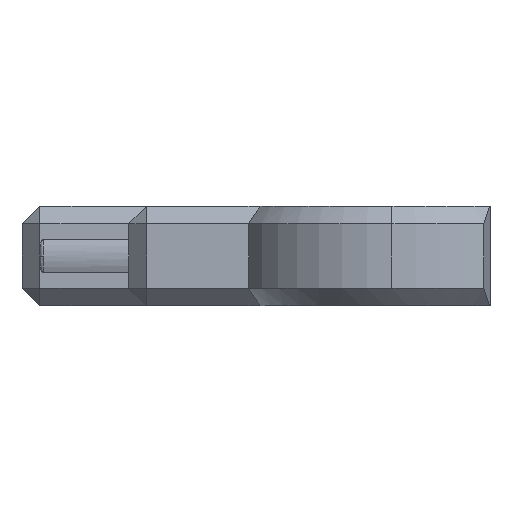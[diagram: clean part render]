
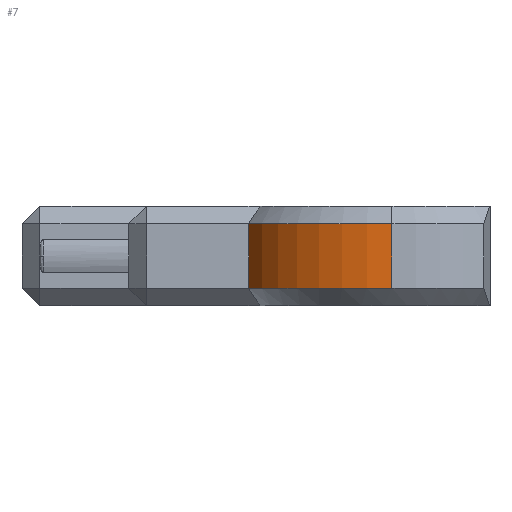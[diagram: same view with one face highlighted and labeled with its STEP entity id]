
A CAD part, left-side view. The second image highlights one B-rep face of the part: STEP entity #7.
In plain terms, the highlighted cylindrical face has radius 4.5 mm (diameter 9 mm), a partial arc.
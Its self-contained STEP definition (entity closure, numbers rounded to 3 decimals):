
#7 = ADVANCED_FACE ( 'NONE', ( #969 ), #635, .T. ) ;
#16 = CARTESIAN_POINT ( 'NONE',  ( 0., 0., 0.5 ) ) ;
#86 = ORIENTED_EDGE ( 'NONE', *, *, #763, .F. ) ;
#108 = VERTEX_POINT ( 'NONE', #1205 ) ;
#156 = CARTESIAN_POINT ( 'NONE',  ( 0., 0., 2.8 ) ) ;
#196 = CARTESIAN_POINT ( 'NONE',  ( -2., 4.031, 2.3 ) ) ;
#296 = CARTESIAN_POINT ( 'NONE',  ( -4.5, 0., 0.5 ) ) ;
#356 = AXIS2_PLACEMENT_3D ( 'NONE', #1237, #857, #739 ) ;
#393 = EDGE_CURVE ( 'NONE', #1663, #1564, #688, .T. ) ;
#514 = DIRECTION ( 'NONE',  ( -1., 0., 0. ) ) ;
#515 = ORIENTED_EDGE ( 'NONE', *, *, #1236, .F. ) ;
#585 = CARTESIAN_POINT ( 'NONE',  ( -2., 4.031, 0.5 ) ) ;
#635 = CYLINDRICAL_SURFACE ( 'NONE', #1739, 4.5 ) ;
#688 = CIRCLE ( 'NONE', #1123, 4.5 ) ;
#692 = EDGE_CURVE ( 'NONE', #108, #1325, #1881, .T. ) ;
#739 = DIRECTION ( 'NONE',  ( 1., 0., 0. ) ) ;
#763 = EDGE_CURVE ( 'NONE', #1663, #1325, #1008, .T. ) ;
#767 = DIRECTION ( 'NONE',  ( 0., 0., 1. ) ) ;
#784 = LINE ( 'NONE', #1244, #828 ) ;
#828 = VECTOR ( 'NONE', #910, 1000. ) ;
#857 = DIRECTION ( 'NONE',  ( 0., 0., -1. ) ) ;
#910 = DIRECTION ( 'NONE',  ( 0., 0., -1. ) ) ;
#969 = FACE_OUTER_BOUND ( 'NONE', #1889, .T. ) ;
#1008 = LINE ( 'NONE', #1082, #1235 ) ;
#1028 = ORIENTED_EDGE ( 'NONE', *, *, #393, .T. ) ;
#1082 = CARTESIAN_POINT ( 'NONE',  ( -2., 4.031, 2.8 ) ) ;
#1123 = AXIS2_PLACEMENT_3D ( 'NONE', #16, #1466, #1124 ) ;
#1124 = DIRECTION ( 'NONE',  ( 1., 0., 0. ) ) ;
#1130 = ORIENTED_EDGE ( 'NONE', *, *, #692, .T. ) ;
#1205 = CARTESIAN_POINT ( 'NONE',  ( -4.5, 0., 2.3 ) ) ;
#1235 = VECTOR ( 'NONE', #767, 1000. ) ;
#1236 = EDGE_CURVE ( 'NONE', #108, #1564, #784, .T. ) ;
#1237 = CARTESIAN_POINT ( 'NONE',  ( 0., 0., 2.3 ) ) ;
#1244 = CARTESIAN_POINT ( 'NONE',  ( -4.5, 0., 2.8 ) ) ;
#1307 = DIRECTION ( 'NONE',  ( 0., 0., -1. ) ) ;
#1325 = VERTEX_POINT ( 'NONE', #196 ) ;
#1466 = DIRECTION ( 'NONE',  ( 0., 0., 1. ) ) ;
#1564 = VERTEX_POINT ( 'NONE', #296 ) ;
#1663 = VERTEX_POINT ( 'NONE', #585 ) ;
#1739 = AXIS2_PLACEMENT_3D ( 'NONE', #156, #1307, #514 ) ;
#1881 = CIRCLE ( 'NONE', #356, 4.5 ) ;
#1889 = EDGE_LOOP ( 'NONE', ( #515, #1130, #86, #1028 ) ) ;
